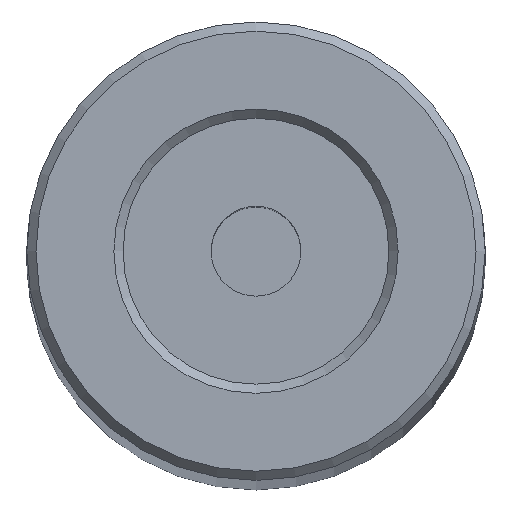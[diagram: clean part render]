
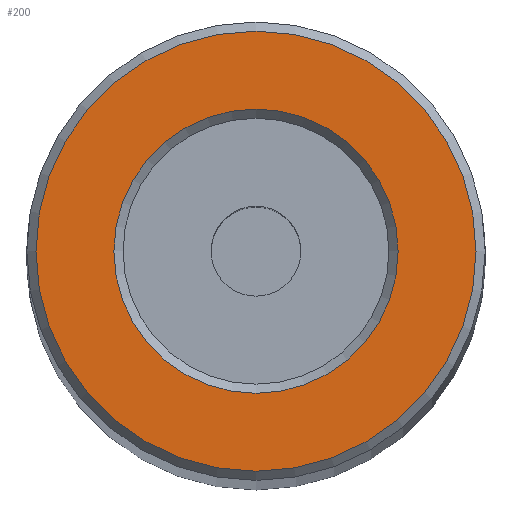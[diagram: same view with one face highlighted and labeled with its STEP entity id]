
A CAD part, top view. The second image highlights one B-rep face of the part: STEP entity #200.
In plain terms, the highlighted planar face has unit normal (0, 0, 1).
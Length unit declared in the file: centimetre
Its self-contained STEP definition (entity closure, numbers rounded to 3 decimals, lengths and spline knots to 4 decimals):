
#41=PLANE('',#221);
#60=VERTEX_POINT('',#365);
#61=VERTEX_POINT('',#368);
#74=CIRCLE('',#220,1.2192);
#75=CIRCLE('',#222,0.7874);
#88=EDGE_CURVE('',#60,#60,#74,.T.);
#89=EDGE_CURVE('',#61,#61,#75,.T.);
#110=ORIENTED_EDGE('',*,*,#89,.T.);
#111=ORIENTED_EDGE('',*,*,#88,.F.);
#146=EDGE_LOOP('',(#110));
#147=EDGE_LOOP('',(#111));
#176=FACE_BOUND('',#146,.T.);
#177=FACE_BOUND('',#147,.T.);
#200=ADVANCED_FACE('',(#176,#177),#41,.T.);
#220=AXIS2_PLACEMENT_3D('',#364,#969,#970);
#221=AXIS2_PLACEMENT_3D('',#366,#971,$);
#222=AXIS2_PLACEMENT_3D('',#367,#972,#973);
#364=CARTESIAN_POINT('',(0.,0.,15.24));
#365=CARTESIAN_POINT('',(1.2192,0.,15.24));
#366=CARTESIAN_POINT('',(0.,0.,15.24));
#367=CARTESIAN_POINT('',(0.,0.,15.24));
#368=CARTESIAN_POINT('',(0.7874,0.,15.24));
#969=DIRECTION('',(0.,0.,-1.));
#970=DIRECTION('',(-1.219,0.,0.));
#971=DIRECTION('',(0.,0.,1.));
#972=DIRECTION('',(0.,0.,-1.));
#973=DIRECTION('',(0.787,0.,0.));
